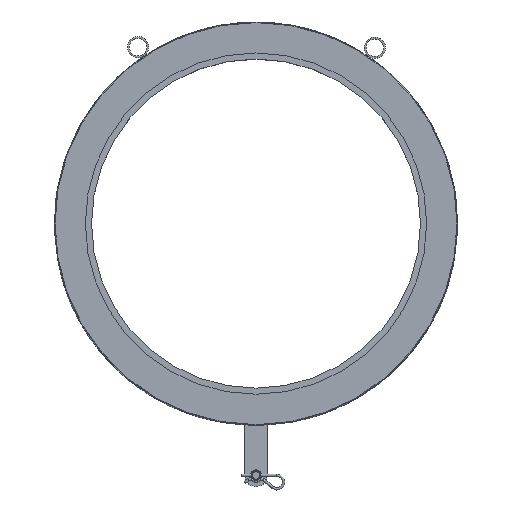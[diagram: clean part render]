
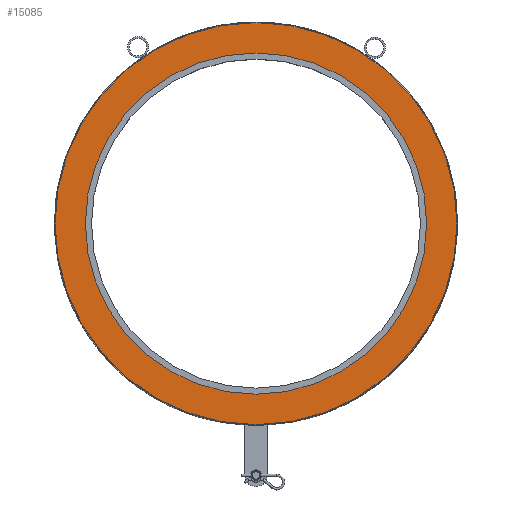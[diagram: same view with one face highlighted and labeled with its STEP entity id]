
A CAD part, top view. The second image highlights one B-rep face of the part: STEP entity #15085.
In plain terms, the highlighted planar face has unit normal (0, 0, 1).
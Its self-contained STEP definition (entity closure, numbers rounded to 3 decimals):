
#522=FACE_BOUND('',#3398,.T.);
#1657=PLANE('',#15923);
#2478=FACE_OUTER_BOUND('',#3397,.T.);
#3397=EDGE_LOOP('',(#13922));
#3398=EDGE_LOOP('',(#13923));
#5834=CIRCLE('',#15920,306.);
#5835=CIRCLE('',#15922,360.5);
#7314=VERTEX_POINT('',#35923);
#7315=VERTEX_POINT('',#35927);
#9528=EDGE_CURVE('',#7314,#7314,#5834,.T.);
#9530=EDGE_CURVE('',#7315,#7315,#5835,.T.);
#13922=ORIENTED_EDGE('',*,*,#9530,.F.);
#13923=ORIENTED_EDGE('',*,*,#9528,.T.);
#15085=ADVANCED_FACE('',(#2478,#522),#1657,.T.);
#15920=AXIS2_PLACEMENT_3D('',#35924,#18538,#18539);
#15922=AXIS2_PLACEMENT_3D('',#35928,#18543,#18544);
#15923=AXIS2_PLACEMENT_3D('',#35930,#18546,#18547);
#18538=DIRECTION('center_axis',(0.,0.,
-1.));
#18539=DIRECTION('ref_axis',(-1.,0.,0.));
#18543=DIRECTION('center_axis',(0.,0.,
-1.));
#18544=DIRECTION('ref_axis',(-1.,0.,0.));
#18546=DIRECTION('center_axis',(0.,0.,
1.));
#18547=DIRECTION('ref_axis',(-1.,0.,0.));
#35923=CARTESIAN_POINT('',(306.,0.,132.));
#35924=CARTESIAN_POINT('Origin',(0.,0.,
132.));
#35927=CARTESIAN_POINT('',(360.5,0.,132.));
#35928=CARTESIAN_POINT('Origin',(0.,0.,
132.));
#35930=CARTESIAN_POINT('Origin',(0.,0.,
132.));
